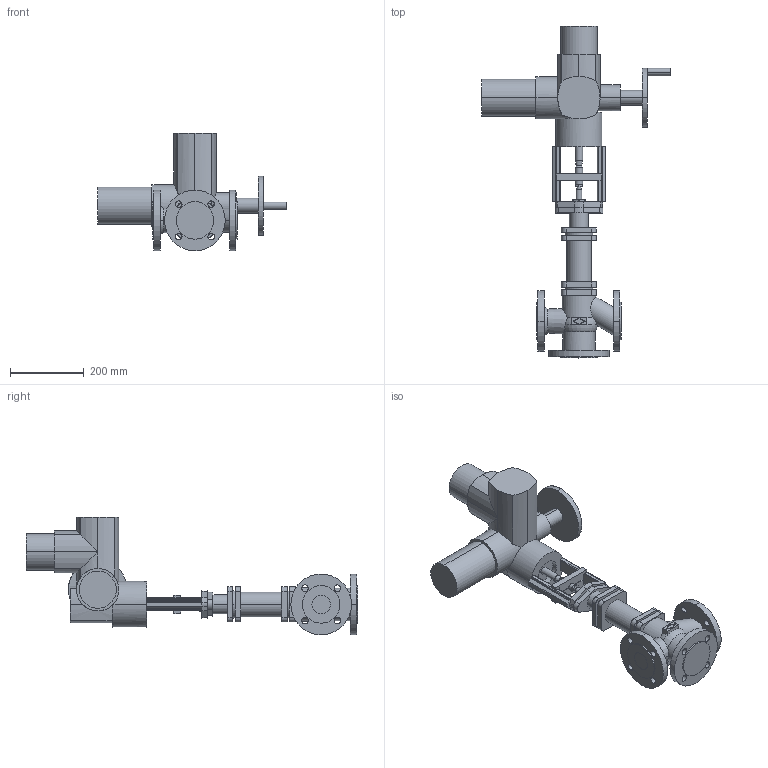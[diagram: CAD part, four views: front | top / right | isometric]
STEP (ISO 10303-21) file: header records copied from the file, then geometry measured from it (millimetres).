
FILE_DESCRIPTION(('OneSpaceDesigner STEP Export'),'2;1');
FILE_NAME('c000003203.stp','2007-01-25T11:57:46',(''),(''),'OneSpace Designer STEP processor for AP214 (Solid Model)','OneSpace Designer 14.00B 27-May-2006 (C) CoCreate Software GmbH','');
FILE_SCHEMA(('AUTOMOTIVE_DESIGN { 1 0 10303 214 1 1 1 1 }'));
Length unit declared in the file: millimetre
Products named in the file (2): 1; 2
Bounding box: 514 x 902.5 x 319.5 mm (x, y, z)
Volume: 12215682.9 mm3; surface area: 766419.5 mm2
Topology: 2 solids, 2 shells, 336 faces, 859 edges, 549 vertices
Faces by surface type: plane 162, cylinder 160, cone 8, torus 6
Entity records: 9891 total; most frequent: CARTESIAN_POINT 2162, ORIENTED_EDGE 1718, DIRECTION 1468, EDGE_CURVE 859, VERTEX_POINT 549, AXIS2_PLACEMENT_3D 499, VECTOR 470, LINE 470
